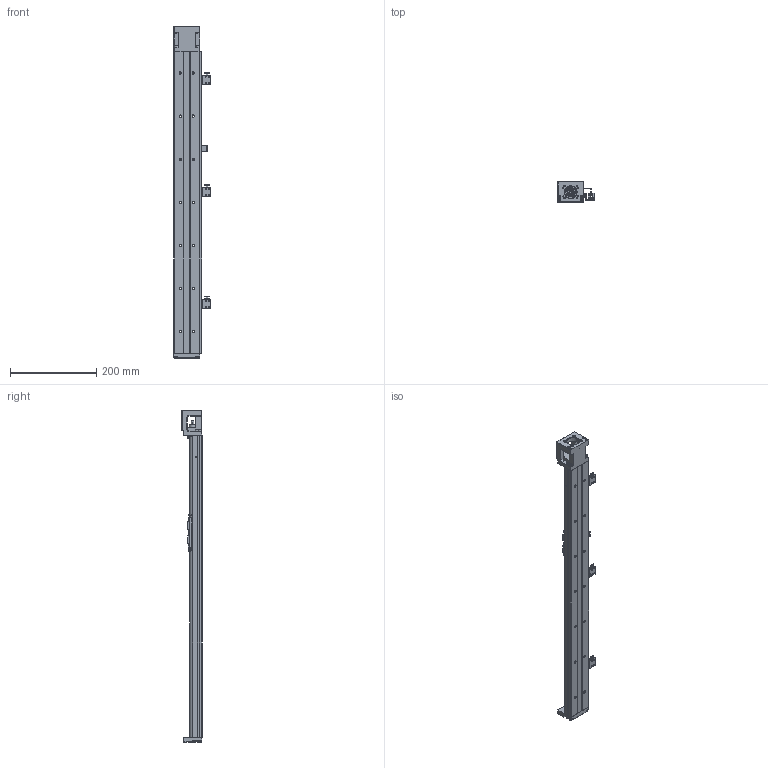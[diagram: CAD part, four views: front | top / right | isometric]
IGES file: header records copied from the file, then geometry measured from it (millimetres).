
Start section: SolidWorks IGES file using analytic representation for surfaces
Bounding box: 84.5 x 47 x 770 mm (x, y, z)
Surface area: 264781.6 mm2 (no closed solid volume)
Topology: 0 solids, 0 shells, 1377 faces, 17121 edges, 17010 vertices
Faces by surface type: bspline 795, revolution 582
